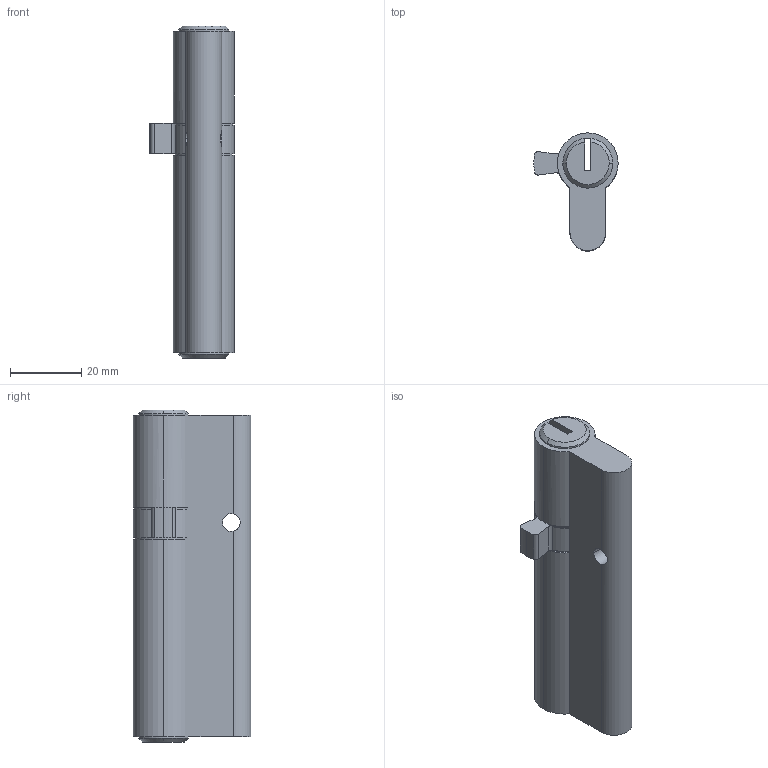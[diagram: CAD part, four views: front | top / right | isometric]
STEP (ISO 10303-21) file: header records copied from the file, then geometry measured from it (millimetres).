
FILE_DESCRIPTION (( 'STEP AP214' ), '1' );
FILE_NAME ('TPL-H-EU-521-R 29Oct2024.STEP', '2024-10-29T22:28:48', ( '' ), ( '' ), 'SwSTEP 2.0', 'SolidWorks 2023', '' );
FILE_SCHEMA (( 'AUTOMOTIVE_DESIGN' ));
Length unit declared in the file: millimetre
Products named in the file (1): TPL-H-EU-521-R 29Oct2024
Bounding box: 23.6 x 33 x 93 mm (x, y, z)
Volume: 33361 mm3; surface area: 10738 mm2
Topology: 1 solids, 1 shells, 52 faces, 144 edges, 90 vertices
Faces by surface type: cylinder 30, plane 16, cone 6
Entity records: 1775 total; most frequent: CARTESIAN_POINT 363, DIRECTION 314, ORIENTED_EDGE 288, EDGE_CURVE 144, AXIS2_PLACEMENT_3D 125, VERTEX_POINT 90, CIRCLE 72, VECTOR 64
